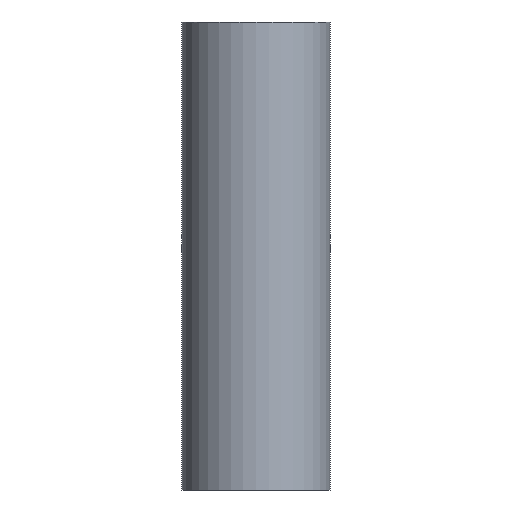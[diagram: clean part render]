
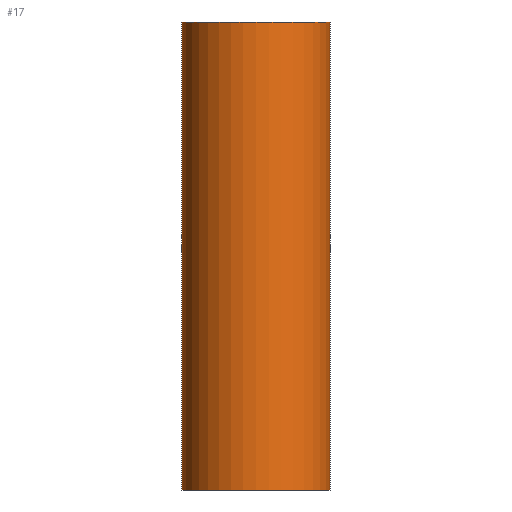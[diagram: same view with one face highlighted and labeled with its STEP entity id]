
A CAD part, front view. The second image highlights one B-rep face of the part: STEP entity #17.
In plain terms, the highlighted cylindrical face has radius 190 mm (diameter 380 mm), a full revolution.
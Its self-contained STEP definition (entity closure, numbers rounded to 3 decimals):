
#17 = ADVANCED_FACE('',(#18),#32,.T.);
#18 = FACE_BOUND('',#19,.F.);
#19 = EDGE_LOOP('',(#20,#50,#77,#78));
#20 = ORIENTED_EDGE('',*,*,#21,.T.);
#21 = EDGE_CURVE('',#22,#24,#26,.T.);
#22 = VERTEX_POINT('',#23);
#23 = CARTESIAN_POINT('',(190.,0.,0.));
#24 = VERTEX_POINT('',#25);
#25 = CARTESIAN_POINT('',(190.,0.,1200.));
#26 = SEAM_CURVE('',#27,(#31,#43),.PCURVE_S1.);
#27 = LINE('',#28,#29);
#28 = CARTESIAN_POINT('',(190.,0.,0.));
#29 = VECTOR('',#30,1.);
#30 = DIRECTION('',(0.,0.,1.));
#31 = PCURVE('',#32,#37);
#32 = CYLINDRICAL_SURFACE('',#33,190.);
#33 = AXIS2_PLACEMENT_3D('',#34,#35,#36);
#34 = CARTESIAN_POINT('',(0.,0.,0.));
#35 = DIRECTION('',(-0.,-0.,-1.));
#36 = DIRECTION('',(1.,0.,0.));
#37 = DEFINITIONAL_REPRESENTATION('',(#38),#42);
#38 = LINE('',#39,#40);
#39 = CARTESIAN_POINT('',(-0.,0.));
#40 = VECTOR('',#41,1.);
#41 = DIRECTION('',(-0.,-1.));
#42 = ( GEOMETRIC_REPRESENTATION_CONTEXT(2) 
PARAMETRIC_REPRESENTATION_CONTEXT() REPRESENTATION_CONTEXT('2D SPACE',''
  ) );
#43 = PCURVE('',#32,#44);
#44 = DEFINITIONAL_REPRESENTATION('',(#45),#49);
#45 = LINE('',#46,#47);
#46 = CARTESIAN_POINT('',(-6.283,0.));
#47 = VECTOR('',#48,1.);
#48 = DIRECTION('',(-0.,-1.));
#49 = ( GEOMETRIC_REPRESENTATION_CONTEXT(2) 
PARAMETRIC_REPRESENTATION_CONTEXT() REPRESENTATION_CONTEXT('2D SPACE',''
  ) );
#50 = ORIENTED_EDGE('',*,*,#51,.T.);
#51 = EDGE_CURVE('',#24,#24,#52,.T.);
#52 = SURFACE_CURVE('',#53,(#58,#65),.PCURVE_S1.);
#53 = CIRCLE('',#54,190.);
#54 = AXIS2_PLACEMENT_3D('',#55,#56,#57);
#55 = CARTESIAN_POINT('',(0.,0.,1200.));
#56 = DIRECTION('',(0.,0.,1.));
#57 = DIRECTION('',(1.,0.,0.));
#58 = PCURVE('',#32,#59);
#59 = DEFINITIONAL_REPRESENTATION('',(#60),#64);
#60 = LINE('',#61,#62);
#61 = CARTESIAN_POINT('',(-0.,-1200.));
#62 = VECTOR('',#63,1.);
#63 = DIRECTION('',(-1.,0.));
#64 = ( GEOMETRIC_REPRESENTATION_CONTEXT(2) 
PARAMETRIC_REPRESENTATION_CONTEXT() REPRESENTATION_CONTEXT('2D SPACE',''
  ) );
#65 = PCURVE('',#66,#71);
#66 = PLANE('',#67);
#67 = AXIS2_PLACEMENT_3D('',#68,#69,#70);
#68 = CARTESIAN_POINT('',(0.,0.,1200.
    ));
#69 = DIRECTION('',(0.,0.,1.));
#70 = DIRECTION('',(1.,0.,-0.));
#71 = DEFINITIONAL_REPRESENTATION('',(#72),#76);
#72 = CIRCLE('',#73,190.);
#73 = AXIS2_PLACEMENT_2D('',#74,#75);
#74 = CARTESIAN_POINT('',(0.,0.));
#75 = DIRECTION('',(1.,0.));
#76 = ( GEOMETRIC_REPRESENTATION_CONTEXT(2) 
PARAMETRIC_REPRESENTATION_CONTEXT() REPRESENTATION_CONTEXT('2D SPACE',''
  ) );
#77 = ORIENTED_EDGE('',*,*,#21,.F.);
#78 = ORIENTED_EDGE('',*,*,#79,.F.);
#79 = EDGE_CURVE('',#22,#22,#80,.T.);
#80 = SURFACE_CURVE('',#81,(#86,#93),.PCURVE_S1.);
#81 = CIRCLE('',#82,190.);
#82 = AXIS2_PLACEMENT_3D('',#83,#84,#85);
#83 = CARTESIAN_POINT('',(0.,0.,0.));
#84 = DIRECTION('',(0.,0.,1.));
#85 = DIRECTION('',(1.,0.,0.));
#86 = PCURVE('',#32,#87);
#87 = DEFINITIONAL_REPRESENTATION('',(#88),#92);
#88 = LINE('',#89,#90);
#89 = CARTESIAN_POINT('',(-0.,0.));
#90 = VECTOR('',#91,1.);
#91 = DIRECTION('',(-1.,0.));
#92 = ( GEOMETRIC_REPRESENTATION_CONTEXT(2) 
PARAMETRIC_REPRESENTATION_CONTEXT() REPRESENTATION_CONTEXT('2D SPACE',''
  ) );
#93 = PCURVE('',#94,#99);
#94 = PLANE('',#95);
#95 = AXIS2_PLACEMENT_3D('',#96,#97,#98);
#96 = CARTESIAN_POINT('',(0.,0.,0.));
#97 = DIRECTION('',(0.,0.,1.));
#98 = DIRECTION('',(1.,0.,-0.));
#99 = DEFINITIONAL_REPRESENTATION('',(#100),#104);
#100 = CIRCLE('',#101,190.);
#101 = AXIS2_PLACEMENT_2D('',#102,#103);
#102 = CARTESIAN_POINT('',(0.,0.));
#103 = DIRECTION('',(1.,0.));
#104 = ( GEOMETRIC_REPRESENTATION_CONTEXT(2) 
PARAMETRIC_REPRESENTATION_CONTEXT() REPRESENTATION_CONTEXT('2D SPACE',''
  ) );
